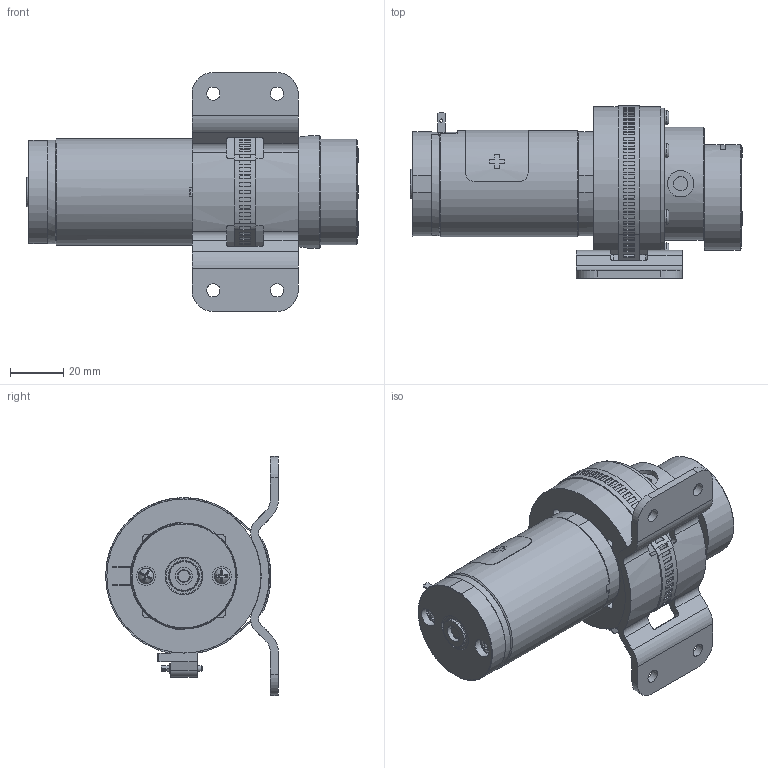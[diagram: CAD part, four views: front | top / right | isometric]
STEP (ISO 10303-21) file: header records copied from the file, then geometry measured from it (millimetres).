
FILE_DESCRIPTION (( 'STEP AP214' ), '1' );
FILE_NAME ('PD14-PM-0.STEP', '2017-03-02T14:40:40', ( '' ), ( '' ), 'SwSTEP 2.0', 'SolidWorks 2015', '' );
FILE_SCHEMA (( 'AUTOMOTIVE_DESIGN' ));
Length unit declared in the file: millimetre
Products named in the file (16): PD03-SC-1; PD12-EP-0; PD03-SC-0; PD11-CU-0; PD12-BO-0; Copy of BB0031^PD12-BO-0; PD03-FL-0; PD13-MA-0; PD07-SC-0_96710A258; PD13-MB-0; PD13-MO-0; Copy of MO0164^PD13-MO-0; PD14-PM-0; bAND^PD14-PM-0; Copy of MB0110^PD14-PM-0; PD12-PU-0
Assembly tree (31 placements, depth 4):
  PD14-PM-0
    PD13-MA-0
      PD13-MO-0
        Copy of MO0164^PD13-MO-0
      PD13-MB-0
      PD07-SC-0_96710A258  x4
    PD12-PU-0
      PD03-FL-0
      PD12-BO-0
        Copy of BB0031^PD12-BO-0
      PD11-CU-0
      PD03-SC-0  x6
      PD12-EP-0
      PD03-SC-1  x3
    PD03-SC-0  x6
    Copy of MB0110^PD14-PM-0
    bAND^PD14-PM-0
Bounding box: 125 x 65.1 x 90 mm (x, y, z)
Volume: 133922.9 mm3; surface area: 86099.9 mm2
Topology: 47 solids, 47 shells, 1210 faces, 3040 edges, 1958 vertices
Faces by surface type: plane 693, cylinder 298, bspline 99, cone 91, torus 29
Full cylindrical faces by diameter (mm): 0.105 x2, 0.813 x2, 1.016 x2, 1.194 x2, 2.261 x2, 2.5 x6, 2.743 x6, 3.2 x9, 3.683 x2, 3.747 x2, 3.871 x1, 3.937 x2, 4 x4, 4.2 x3, 4.489 x1, 4.743 x1, 4.759 x2, 4.765 x1, 4.953 x4, 5 x4, 5.08 x2, 5.41 x2, 5.5 x15, 5.842 x2, 6 x3, 6.096 x4, 6.35 x3, 6.477 x2, 6.858 x4, 7.137 x2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
Entity records: 44434 total; most frequent: CARTESIAN_POINT 12416, DIRECTION 5500, ORIENTED_EDGE 5460, EDGE_CURVE 2730, AXIS2_PLACEMENT_3D 2009, VERTEX_POINT 1865, EDGE_LOOP 1559, VECTOR 1482
